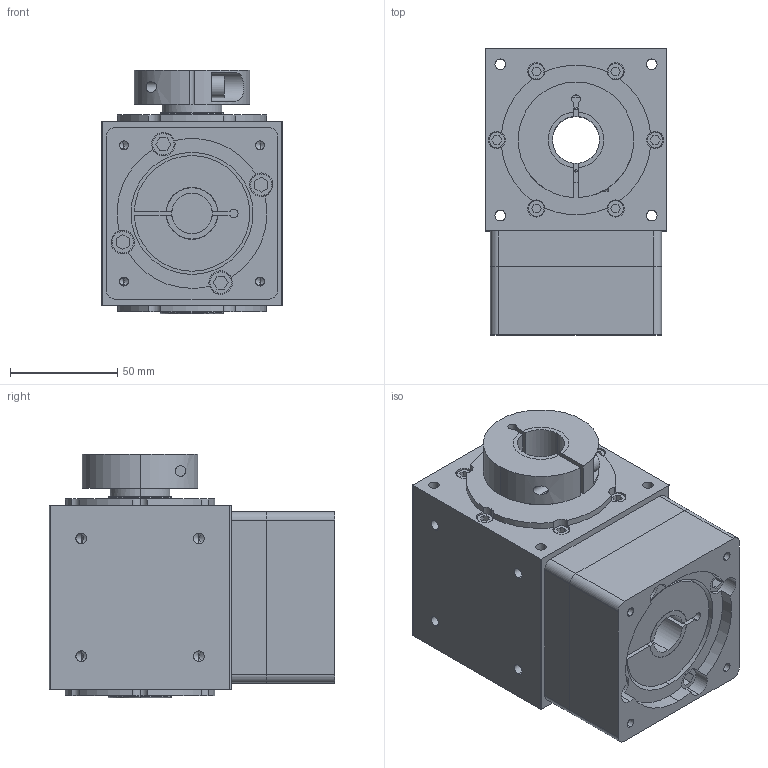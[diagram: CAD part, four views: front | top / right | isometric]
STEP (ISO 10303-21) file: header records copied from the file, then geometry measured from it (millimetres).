
FILE_DESCRIPTION (( 'STEP AP203' ), '1' );
FILE_NAME ('AT85-C1Ä£ÐÍ£¨19-35 70-3 4-5.5-90).STEP', '2021-11-29T08:50:47', ( '' ), ( '' ), 'SwSTEP 2.0', 'SolidWorks 2016', '' );
FILE_SCHEMA (( 'CONFIG_CONTROL_DESIGN' ));
Length unit declared in the file: millimetre
Products named in the file (1): AT85-C1模型（19-35 70-3 4-5.5-90)
Bounding box: 85 x 133.5 x 114 mm (x, y, z)
Volume: 891367.9 mm3; surface area: 116496.4 mm2
Topology: 2 solids, 2 shells, 447 faces, 1116 edges, 720 vertices
Faces by surface type: plane 221, cylinder 198, cone 24, torus 4
Entity records: 13571 total; most frequent: CARTESIAN_POINT 2449, DIRECTION 2424, ORIENTED_EDGE 2200, EDGE_CURVE 1100, AXIS2_PLACEMENT_3D 887, VERTEX_POINT 720, VECTOR 650, LINE 650
